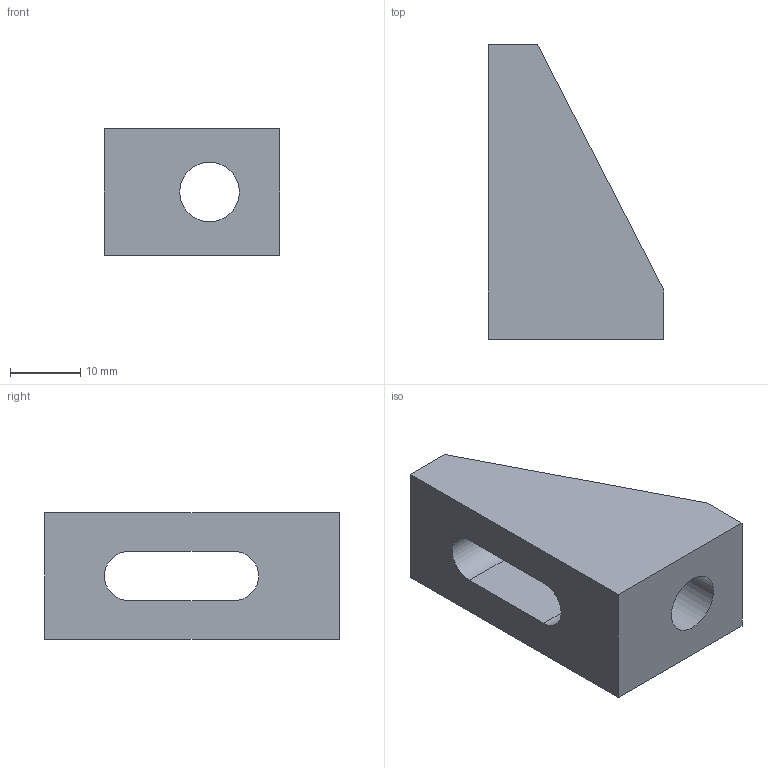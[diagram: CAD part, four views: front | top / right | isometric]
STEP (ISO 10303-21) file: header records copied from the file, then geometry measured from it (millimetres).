
FILE_DESCRIPTION (( 'STEP AP214' ), '1' );
FILE_NAME ('SL03001.step', '2024-12-03T16:30:53', ( '' ), ( '' ), 'SwSTEP 2.0', 'SolidWorks 2023', '' );
FILE_SCHEMA (( 'AUTOMOTIVE_DESIGN' ));
Length unit declared in the file: millimetre
Products named in the file (1): SL03001
Bounding box: 25 x 42 x 18 mm (x, y, z)
Volume: 7418.4 mm3; surface area: 4607.8 mm2
Topology: 1 solids, 1 shells, 17 faces, 41 edges, 26 vertices
Faces by surface type: plane 14, cylinder 3
Full cylindrical faces by diameter (mm): 8.5 x1
Entity records: 515 total; most frequent: CARTESIAN_POINT 84, DIRECTION 82, ORIENTED_EDGE 80, EDGE_CURVE 40, LINE 34, VECTOR 34, VERTEX_POINT 26, AXIS2_PLACEMENT_3D 24
